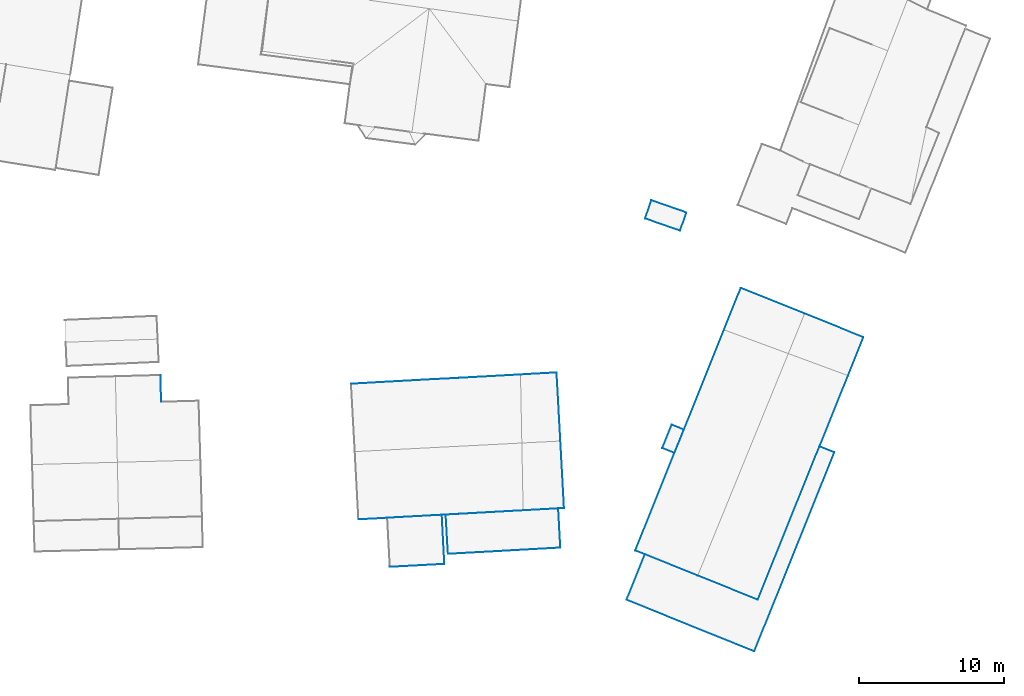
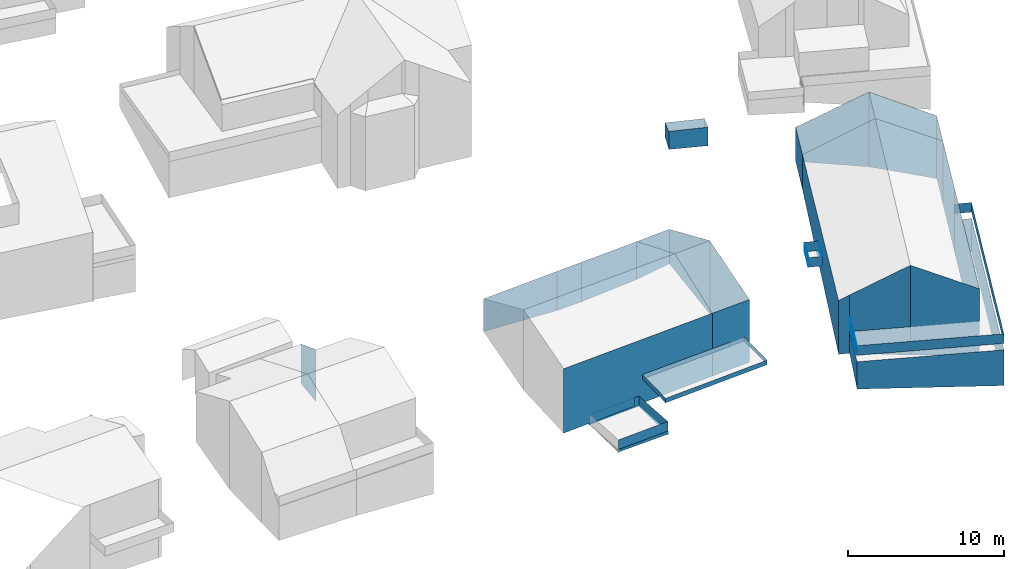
# Not in any storey, part 26 of 57: 61 walls.
"""IFC2X3 building model written with IfcOpenShell, lengths in metres."""

from ifc_helpers import new_model, entity, si_unit, converted_unit, frame, origin, place, context, subcontext, project, spatial, face_set, surface_model, element, save


model = new_model("IFC2X3")

# Units and contexts
model_context = context("Model", 3, precision=1e-05, world=origin())
body_context = subcontext(model_context, "Body", "Model", "MODEL_VIEW")
ifc_project = project(units=[converted_unit("PLANEANGLEUNIT", "DEGREE", entity("IfcRatioMeasure", 0.0174532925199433), si_unit("PLANEANGLEUNIT", "RADIAN"), dimensions=[0, 0, 0, 0, 0, 0, 0]), si_unit("AREAUNIT", "SQUARE_METRE"), si_unit("LENGTHUNIT", "METRE")], contexts=[model_context])

# Site, building
site_placement = place(None, origin())
site = spatial("IfcSite", under=ifc_project, at=site_placement, Name="_site", CompositionType="ELEMENT")
building_1_placement = place(site_placement, origin())
building_1 = spatial("IfcBuilding", under=site, at=building_1_placement, Name="_building", CompositionType="ELEMENT")

# Walls
wall_1_placement = place(building_1_placement, origin())
element("IfcWall", 1, at=wall_1_placement, inside=building_1, Name="Wall", context=body_context, shape_type="SurfaceModel", body=[
    surface_model("IfcFaceBasedSurfaceModel", [(268.934, 72.325, 108.76), (267.872, 69.688, 108.76), (267.872, 69.688, 103.866), (268.934, 72.325, 103.85)], [face_set([[[0, 1, 2, 3]]])]),
])
wall_2_placement = place(building_1_placement, origin())
element("IfcWall", 2, at=wall_2_placement, inside=building_1, Name="Wall", context=body_context, shape_type="SurfaceModel", body=[
    surface_model("IfcFaceBasedSurfaceModel", [(264.88, 73.961, 111.04), (268.934, 72.325, 108.76), (268.934, 72.325, 103.85), (264.88, 73.961, 105.195)], [face_set([[[0, 1, 2, 3]]])]),
])
wall_3_placement = place(building_1_placement, origin())
element("IfcWall", 3, at=wall_3_placement, inside=building_1, Name="Wall", context=body_context, shape_type="SurfaceModel", body=[
    surface_model("IfcFaceBasedSurfaceModel", [(260.489, 75.724, 108.76), (264.88, 73.961, 111.04), (264.88, 73.961, 105.195), (260.489, 75.724, 106.09)], [face_set([[[0, 1, 2, 3]]])]),
])
wall_4_placement = place(building_1_placement, origin())
element("IfcWall", 4, at=wall_4_placement, inside=building_1, Name="Wall", context=body_context, shape_type="SurfaceModel", body=[
    surface_model("IfcFaceBasedSurfaceModel", [(259.33, 72.84, 108.76), (260.489, 75.724, 108.76), (260.489, 75.724, 106.09), (259.33, 72.84, 106.029)], [face_set([[[0, 1, 2, 3]]])]),
])

# Building
building_2_placement = place(site_placement, origin())
building_2 = spatial("IfcBuilding", under=site, at=building_2_placement, Name="_building", CompositionType="ELEMENT")

# Walls
wall_5_placement = place(building_2_placement, origin())
element("IfcWall", 5, at=wall_5_placement, inside=building_2, Name="Wall", context=body_context, shape_type="SurfaceModel", body=[
    surface_model("IfcFaceBasedSurfaceModel", [(256.298, 79.665, 107.84), (253.886, 80.512, 107.84), (253.886, 80.512, 106.434), (256.298, 79.665, 106.392)], [face_set([[[0, 1, 2, 3]]])]),
])
wall_6_placement = place(building_2_placement, origin())
element("IfcWall", 6, at=wall_6_placement, inside=building_2, Name="Wall", context=body_context, shape_type="SurfaceModel", body=[
    surface_model("IfcFaceBasedSurfaceModel", [(256.738, 80.915, 107.6), (256.298, 79.665, 107.84), (256.298, 79.665, 106.392), (256.738, 80.915, 106.479)], [face_set([[[0, 1, 2, 3]]])]),
])
wall_7_placement = place(building_2_placement, origin())
element("IfcWall", 7, at=wall_7_placement, inside=building_2, Name="Wall", context=body_context, shape_type="SurfaceModel", body=[
    surface_model("IfcFaceBasedSurfaceModel", [(254.326, 81.762, 107.6), (256.738, 80.915, 107.6), (256.738, 80.915, 106.479), (254.326, 81.762, 106.477)], [face_set([[[0, 1, 2, 3]]])]),
])
wall_8_placement = place(building_2_placement, origin())
element("IfcWall", 8, at=wall_8_placement, inside=building_2, Name="Wall", context=body_context, shape_type="SurfaceModel", body=[
    surface_model("IfcFaceBasedSurfaceModel", [(253.886, 80.512, 107.84), (254.326, 81.762, 107.6), (254.326, 81.762, 106.477), (253.886, 80.512, 106.434)], [face_set([[[0, 1, 2, 3]]])]),
])

# Building
building_3_placement = place(site_placement, origin())
building_3 = spatial("IfcBuilding", under=site, at=building_3_placement, Name="_building", CompositionType="ELEMENT")

# Walls
wall_9_placement = place(building_3_placement, origin())
element("IfcWall", 9, at=wall_9_placement, inside=building_3, Name="Wall", context=body_context, shape_type="SurfaceModel", body=[
    surface_model("IfcFaceBasedSurfaceModel", [(261.413, 50.677, 106.24), (252.611, 54.225, 106.24), (252.611, 54.225, 104.109), (261.413, 50.677, 103.45)], [face_set([[[0, 1, 2, 3]]])]),
])
wall_10_placement = place(building_3_placement, origin())
element("IfcWall", 10, at=wall_10_placement, inside=building_3, Name="Wall", context=body_context, shape_type="SurfaceModel", body=[
    surface_model("IfcFaceBasedSurfaceModel", [(265.906, 64.801, 106.24), (266.937, 64.396, 106.24), (266.937, 64.396, 103.666), (265.906, 64.801, 103.779)], [face_set([[[0, 1, 2, 3]]])]),
])
wall_11_placement = place(building_3_placement, origin())
element("IfcWall", 11, at=wall_11_placement, inside=building_3, Name="Wall", context=body_context, shape_type="SurfaceModel", body=[
    surface_model("IfcFaceBasedSurfaceModel", [(261.656, 54.234, 108.76), (257.513, 55.902, 111.04), (257.513, 55.902, 104.021), (261.656, 54.234, 103.592)], [face_set([[[0, 1, 2, 3]]])]),
])
wall_12_placement = place(building_3_placement, origin())
element("IfcWall", 12, at=wall_12_placement, inside=building_3, Name="Wall", context=body_context, shape_type="SurfaceModel", body=[
    surface_model("IfcFaceBasedSurfaceModel", [(267.872, 69.688, 108.76), (265.906, 64.801, 108.76), (265.906, 64.801, 103.779), (267.872, 69.688, 103.866)], [face_set([[[0, 1, 2, 3]]])]),
])
wall_13_placement = place(building_3_placement, origin())
element("IfcWall", 13, at=wall_13_placement, inside=building_3, Name="Wall", context=body_context, shape_type="SurfaceModel", body=[
    surface_model("IfcFaceBasedSurfaceModel", [(265.906, 64.801, 108.76), (261.656, 54.234, 108.76), (261.656, 54.234, 103.592), (265.906, 64.801, 103.779)], [face_set([[[0, 1, 2, 3]]])]),
])
wall_14_placement = place(building_3_placement, origin())
element("IfcWall", 14, at=wall_14_placement, inside=building_3, Name="Wall", context=body_context, shape_type="SurfaceModel", body=[
    surface_model("IfcFaceBasedSurfaceModel", [(266.937, 64.396, 106.24), (261.413, 50.677, 106.24), (261.413, 50.677, 103.45), (266.937, 64.396, 103.666)], [face_set([[[0, 1, 2, 3]]])]),
])
wall_15_placement = place(building_3_placement, origin())
element("IfcWall", 15, at=wall_15_placement, inside=building_3, Name="Wall", context=body_context, shape_type="SurfaceModel", body=[
    surface_model("IfcFaceBasedSurfaceModel", [(253.875, 57.367, 109.11), (253.21, 57.623, 108.76), (253.21, 57.623, 104.551), (253.875, 57.367, 104.56)], [face_set([[[0, 1, 2, 3]]])]),
])
wall_16_placement = place(building_3_placement, origin())
element("IfcWall", 16, at=wall_16_placement, inside=building_3, Name="Wall", context=body_context, shape_type="SurfaceModel", body=[
    surface_model("IfcFaceBasedSurfaceModel", [(253.875, 57.367, 106.24), (257.513, 55.902, 106.24), (257.513, 55.902, 104.021), (253.875, 57.367, 104.56)], [face_set([[[0, 1, 2, 3]]])]),
])
wall_17_placement = place(building_3_placement, origin())
element("IfcWall", 17, at=wall_17_placement, inside=building_3, Name="Wall", context=body_context, shape_type="SurfaceModel", body=[
    surface_model("IfcFaceBasedSurfaceModel", [(252.611, 54.225, 106.24), (253.875, 57.367, 106.24), (253.875, 57.367, 104.56), (252.611, 54.225, 104.109)], [face_set([[[0, 1, 2, 3]]])]),
])
wall_18_placement = place(building_3_placement, origin())
element("IfcWall", 18, at=wall_18_placement, inside=building_3, Name="Wall", context=body_context, shape_type="SurfaceModel", body=[
    surface_model("IfcFaceBasedSurfaceModel", [(253.21, 57.623, 108.76), (259.33, 72.84, 108.76), (259.33, 72.84, 106.029), (253.21, 57.623, 104.551)], [face_set([[[0, 1, 2, 3]]])]),
])
wall_19_placement = place(building_3_placement, origin())
element("IfcWall", 19, at=wall_19_placement, inside=building_3, Name="Wall", context=body_context, shape_type="SurfaceModel", body=[
    surface_model("IfcFaceBasedSurfaceModel", [(257.513, 55.902, 111.04), (253.875, 57.367, 109.11), (253.875, 57.367, 106.24), (257.513, 55.902, 106.24)], [face_set([[[0, 1, 2, 3]]])]),
])
wall_20_placement = place(building_3_placement, origin())
element("IfcWall", 20, at=wall_20_placement, inside=building_3, Name="Wall", context=body_context, shape_type="SurfaceModel", body=[
    surface_model("IfcFaceBasedSurfaceModel", [(252.611, 54.225, 106.741), (261.413, 50.677, 106.741), (261.413, 50.677, 107.491), (252.611, 54.225, 107.491)], [face_set([[[0, 1, 2, 3]]])]),
])
wall_21_placement = place(building_3_placement, origin())
element("IfcWall", 21, at=wall_21_placement, inside=building_3, Name="Wall", context=body_context, shape_type="SurfaceModel", body=[
    surface_model("IfcFaceBasedSurfaceModel", [(253.875, 57.367, 106.741), (252.611, 54.225, 106.741), (252.611, 54.225, 107.491), (253.875, 57.367, 107.491)], [face_set([[[0, 1, 2, 3]]])]),
])
wall_22_placement = place(building_3_placement, origin())
element("IfcWall", 22, at=wall_22_placement, inside=building_3, Name="Wall", context=body_context, shape_type="SurfaceModel", body=[
    surface_model("IfcFaceBasedSurfaceModel", [(255.909, 64.344, 106.42), (255.077, 64.684, 106.42), (255.077, 64.684, 107.17), (255.909, 64.344, 107.17)], [face_set([[[0, 1, 2, 3]]])]),
])
wall_23_placement = place(building_3_placement, origin())
element("IfcWall", 23, at=wall_23_placement, inside=building_3, Name="Wall", context=body_context, shape_type="SurfaceModel", body=[
    surface_model("IfcFaceBasedSurfaceModel", [(255.725, 66.29, 106.42), (256.558, 65.96, 106.42), (256.558, 65.96, 107.17), (255.725, 66.29, 107.17)], [face_set([[[0, 1, 2, 3]]])]),
])
wall_24_placement = place(building_3_placement, origin())
element("IfcWall", 24, at=wall_24_placement, inside=building_3, Name="Wall", context=body_context, shape_type="SurfaceModel", body=[
    surface_model("IfcFaceBasedSurfaceModel", [(255.077, 64.684, 106.42), (255.725, 66.29, 106.42), (255.725, 66.29, 107.17), (255.077, 64.684, 107.17)], [face_set([[[0, 1, 2, 3]]])]),
])
wall_25_placement = place(building_3_placement, origin())
element("IfcWall", 25, at=wall_25_placement, inside=building_3, Name="Wall", context=body_context, shape_type="SurfaceModel", body=[
    surface_model("IfcFaceBasedSurfaceModel", [(261.413, 50.677, 106.741), (266.937, 64.396, 106.741), (266.937, 64.396, 107.491), (261.413, 50.677, 107.491)], [face_set([[[0, 1, 2, 3]]])]),
])
wall_26_placement = place(building_3_placement, origin())
element("IfcWall", 26, at=wall_26_placement, inside=building_3, Name="Wall", context=body_context, shape_type="SurfaceModel", body=[
    surface_model("IfcFaceBasedSurfaceModel", [(256.558, 65.96, 106.42), (255.909, 64.344, 106.42), (255.909, 64.344, 107.17), (256.558, 65.96, 107.17)], [face_set([[[0, 1, 2, 3]]])]),
])
wall_27_placement = place(building_3_placement, origin())
element("IfcWall", 27, at=wall_27_placement, inside=building_3, Name="Wall", context=body_context, shape_type="SurfaceModel", body=[
    surface_model("IfcFaceBasedSurfaceModel", [(266.937, 64.396, 106.741), (265.906, 64.801, 106.741), (265.906, 64.801, 107.491), (266.937, 64.396, 107.491)], [face_set([[[0, 1, 2, 3]]])]),
])
wall_28_placement = place(building_3_placement, origin())
element("IfcWall", 28, at=wall_28_placement, inside=building_3, Name="Wall", context=body_context, shape_type="SurfaceModel", body=[
    surface_model("IfcFaceBasedSurfaceModel", [(253.875, 57.367, 106.741), (252.611, 54.225, 106.741), (252.611, 54.225, 107.491), (253.875, 57.367, 107.491)], [face_set([[[0, 1, 2, 3]]])]),
])
wall_29_placement = place(building_3_placement, origin())
element("IfcWall", 29, at=wall_29_placement, inside=building_3, Name="Wall", context=body_context, shape_type="SurfaceModel", body=[
    surface_model("IfcFaceBasedSurfaceModel", [(255.725, 66.29, 106.42), (256.558, 65.96, 106.42), (256.558, 65.96, 107.17), (255.725, 66.29, 107.17)], [face_set([[[0, 1, 2, 3]]])]),
])
wall_30_placement = place(building_3_placement, origin())
element("IfcWall", 30, at=wall_30_placement, inside=building_3, Name="Wall", context=body_context, shape_type="SurfaceModel", body=[
    surface_model("IfcFaceBasedSurfaceModel", [(255.909, 64.344, 106.42), (255.077, 64.684, 106.42), (255.077, 64.684, 107.17), (255.909, 64.344, 107.17)], [face_set([[[0, 1, 2, 3]]])]),
])
wall_31_placement = place(building_3_placement, origin())
element("IfcWall", 31, at=wall_31_placement, inside=building_3, Name="Wall", context=body_context, shape_type="SurfaceModel", body=[
    surface_model("IfcFaceBasedSurfaceModel", [(256.558, 65.96, 106.42), (255.909, 64.344, 106.42), (255.909, 64.344, 107.17), (256.558, 65.96, 107.17)], [face_set([[[0, 1, 2, 3]]])]),
])
wall_32_placement = place(building_3_placement, origin())
element("IfcWall", 32, at=wall_32_placement, inside=building_3, Name="Wall", context=body_context, shape_type="SurfaceModel", body=[
    surface_model("IfcFaceBasedSurfaceModel", [(261.413, 50.677, 106.741), (266.937, 64.396, 106.741), (266.937, 64.396, 107.491), (261.413, 50.677, 107.491)], [face_set([[[0, 1, 2, 3]]])]),
])
wall_33_placement = place(building_3_placement, origin())
element("IfcWall", 33, at=wall_33_placement, inside=building_3, Name="Wall", context=body_context, shape_type="SurfaceModel", body=[
    surface_model("IfcFaceBasedSurfaceModel", [(266.937, 64.396, 106.741), (265.906, 64.801, 106.741), (265.906, 64.801, 107.491), (266.937, 64.396, 107.491)], [face_set([[[0, 1, 2, 3]]])]),
])
wall_34_placement = place(building_3_placement, origin())
element("IfcWall", 34, at=wall_34_placement, inside=building_3, Name="Wall", context=body_context, shape_type="SurfaceModel", body=[
    surface_model("IfcFaceBasedSurfaceModel", [(252.611, 54.225, 106.741), (261.413, 50.677, 106.741), (261.413, 50.677, 107.491), (252.611, 54.225, 107.491)], [face_set([[[0, 1, 2, 3]]])]),
])
wall_35_placement = place(building_3_placement, origin())
element("IfcWall", 35, at=wall_35_placement, inside=building_3, Name="Wall", context=body_context, shape_type="SurfaceModel", body=[
    surface_model("IfcFaceBasedSurfaceModel", [(255.077, 64.684, 106.42), (255.725, 66.29, 106.42), (255.725, 66.29, 107.17), (255.077, 64.684, 107.17)], [face_set([[[0, 1, 2, 3]]])]),
])

# Building
building_4_placement = place(site_placement, origin())
building_4 = spatial("IfcBuilding", under=site, at=building_4_placement, Name="_building", CompositionType="ELEMENT")

# Walls
wall_36_placement = place(building_4_placement, origin())
element("IfcWall", 36, at=wall_36_placement, inside=building_4, Name="Wall", context=body_context, shape_type="SurfaceModel", body=[
    surface_model("IfcFaceBasedSurfaceModel", [(247.905, 60.529, 106.0), (248.052, 57.824, 105.78), (248.052, 57.824, 105.43), (247.905, 60.529, 105.65)], [face_set([[[0, 1, 2, 3]]])]),
])
wall_37_placement = place(building_4_placement, origin())
element("IfcWall", 37, at=wall_37_placement, inside=building_4, Name="Wall", context=body_context, shape_type="SurfaceModel", body=[
    surface_model("IfcFaceBasedSurfaceModel", [(240.307, 57.395, 105.77), (240.15, 60.1, 106.04), (240.15, 60.1, 105.69), (240.307, 57.395, 105.42)], [face_set([[[0, 1, 2, 3]]])]),
])
wall_38_placement = place(building_4_placement, origin())
element("IfcWall", 38, at=wall_38_placement, inside=building_4, Name="Wall", context=body_context, shape_type="SurfaceModel", body=[
    surface_model("IfcFaceBasedSurfaceModel", [(248.052, 57.824, 105.78), (240.307, 57.395, 105.77), (240.307, 57.395, 105.42), (248.052, 57.824, 105.43)], [face_set([[[0, 1, 2, 3]]])]),
])
wall_39_placement = place(building_4_placement, origin())
element("IfcWall", 39, at=wall_39_placement, inside=building_4, Name="Wall", context=body_context, shape_type="SurfaceModel", body=[
    surface_model("IfcFaceBasedSurfaceModel", [(240.307, 57.395, 105.77), (240.15, 60.1, 106.04), (240.15, 60.1, 105.69), (240.307, 57.395, 105.42)], [face_set([[[0, 1, 2, 3]]])]),
])
wall_40_placement = place(building_4_placement, origin())
element("IfcWall", 40, at=wall_40_placement, inside=building_4, Name="Wall", context=body_context, shape_type="SurfaceModel", body=[
    surface_model("IfcFaceBasedSurfaceModel", [(247.905, 60.529, 106.0), (248.052, 57.824, 105.78), (248.052, 57.824, 105.43), (247.905, 60.529, 105.65)], [face_set([[[0, 1, 2, 3]]])]),
])
wall_41_placement = place(building_4_placement, origin())
element("IfcWall", 41, at=wall_41_placement, inside=building_4, Name="Wall", context=body_context, shape_type="SurfaceModel", body=[
    surface_model("IfcFaceBasedSurfaceModel", [(248.052, 57.824, 105.78), (240.307, 57.395, 105.77), (240.307, 57.395, 105.42), (248.052, 57.824, 105.43)], [face_set([[[0, 1, 2, 3]]])]),
])

# Building
building_5_placement = place(site_placement, origin())
building_5 = spatial("IfcBuilding", under=site, at=building_5_placement, Name="_building", CompositionType="ELEMENT")

# Walls
wall_42_placement = place(building_5_placement, origin())
element("IfcWall", 42, at=wall_42_placement, inside=building_5, Name="Wall", context=body_context, shape_type="SurfaceModel", body=[
    surface_model("IfcFaceBasedSurfaceModel", [(247.794, 69.898, 108.77), (248.054, 65.179, 110.65), (248.054, 65.179, 104.918), (247.794, 69.898, 106.067)], [face_set([[[0, 1, 2, 3]]])]),
])
wall_43_placement = place(building_5_placement, origin())
element("IfcWall", 43, at=wall_43_placement, inside=building_5, Name="Wall", context=body_context, shape_type="SurfaceModel", body=[
    surface_model("IfcFaceBasedSurfaceModel", [(245.299, 69.756, 108.77), (247.794, 69.898, 108.77), (247.794, 69.898, 106.067), (245.299, 69.756, 105.801)], [face_set([[[0, 1, 2, 3]]])]),
])
wall_44_placement = place(building_5_placement, origin())
element("IfcWall", 44, at=wall_44_placement, inside=building_5, Name="Wall", context=body_context, shape_type="SurfaceModel", body=[
    surface_model("IfcFaceBasedSurfaceModel", [(248.306, 60.55, 108.77), (245.481, 60.396, 108.78), (245.481, 60.396, 103.866), (248.306, 60.55, 103.871)], [face_set([[[0, 1, 2, 3]]])]),
])
wall_45_placement = place(building_5_placement, origin())
element("IfcWall", 45, at=wall_45_placement, inside=building_5, Name="Wall", context=body_context, shape_type="SurfaceModel", body=[
    surface_model("IfcFaceBasedSurfaceModel", [(248.054, 65.179, 110.65), (248.306, 60.55, 108.77), (248.306, 60.55, 103.871), (248.054, 65.179, 104.918)], [face_set([[[0, 1, 2, 3]]])]),
])

# Building
building_6_placement = place(site_placement, origin())
building_6 = spatial("IfcBuilding", under=site, at=building_6_placement, Name="_building", CompositionType="ELEMENT")

# Wall
wall_46_placement = place(building_6_placement, origin())
element("IfcWall", 46, at=wall_46_placement, inside=building_6, Name="Wall", context=body_context, shape_type="SurfaceModel", body=[
    surface_model("IfcFaceBasedSurfaceModel", [(220.493, 69.716, 109.47), (220.54, 67.874, 110.14), (220.54, 67.874, 106.056), (220.493, 69.716, 106.356)], [face_set([[[0, 1, 2, 3]]])]),
])

# Building
building_7_placement = place(site_placement, origin())
building_7 = spatial("IfcBuilding", under=site, at=building_7_placement, Name="_building", CompositionType="ELEMENT")

# Walls
wall_47_placement = place(building_7_placement, origin())
element("IfcWall", 47, at=wall_47_placement, inside=building_7, Name="Wall", context=body_context, shape_type="SurfaceModel", body=[
    surface_model("IfcFaceBasedSurfaceModel", [(240.15, 60.1, 106.04), (247.905, 60.529, 106.0), (247.905, 60.529, 105.65), (240.15, 60.1, 105.69)], [face_set([[[0, 1, 2, 3]]])]),
])
wall_48_placement = place(building_7_placement, origin())
element("IfcWall", 48, at=wall_48_placement, inside=building_7, Name="Wall", context=body_context, shape_type="SurfaceModel", body=[
    surface_model("IfcFaceBasedSurfaceModel", [(233.627, 69.118, 108.77), (239.208, 69.429, 108.77), (239.208, 69.429, 105.701), (233.627, 69.118, 106.204)], [face_set([[[0, 1, 2, 3]]])]),
])
wall_49_placement = place(building_7_placement, origin())
element("IfcWall", 49, at=wall_49_placement, inside=building_7, Name="Wall", context=body_context, shape_type="SurfaceModel", body=[
    surface_model("IfcFaceBasedSurfaceModel", [(245.481, 60.396, 108.78), (234.139, 59.771, 108.8), (234.139, 59.771, 103.765), (245.481, 60.396, 103.866)], [face_set([[[0, 1, 2, 3]]])]),
])
wall_50_placement = place(building_7_placement, origin())
element("IfcWall", 50, at=wall_50_placement, inside=building_7, Name="Wall", context=body_context, shape_type="SurfaceModel", body=[
    surface_model("IfcFaceBasedSurfaceModel", [(239.208, 69.429, 108.77), (241.091, 69.524, 108.77), (241.091, 69.524, 105.666), (239.208, 69.429, 105.701)], [face_set([[[0, 1, 2, 3]]])]),
])
wall_51_placement = place(building_7_placement, origin())
element("IfcWall", 51, at=wall_51_placement, inside=building_7, Name="Wall", context=body_context, shape_type="SurfaceModel", body=[
    surface_model("IfcFaceBasedSurfaceModel", [(239.88, 60.087, 103.72), (240.061, 56.701, 103.72), (240.061, 56.701, 103.475), (239.88, 60.087, 103.708)], [face_set([[[0, 1, 2, 3]]])]),
])
wall_52_placement = place(building_7_placement, origin())
element("IfcWall", 52, at=wall_52_placement, inside=building_7, Name="Wall", context=body_context, shape_type="SurfaceModel", body=[
    surface_model("IfcFaceBasedSurfaceModel", [(236.123, 59.884, 103.72), (239.88, 60.087, 103.72), (239.88, 60.087, 103.708), (236.123, 59.884, 103.709)], [face_set([[[0, 1, 2, 3]]])]),
])
wall_53_placement = place(building_7_placement, origin())
element("IfcWall", 53, at=wall_53_placement, inside=building_7, Name="Wall", context=body_context, shape_type="SurfaceModel", body=[
    surface_model("IfcFaceBasedSurfaceModel", [(240.061, 56.701, 103.72), (236.304, 56.498, 103.72), (236.304, 56.498, 103.517), (240.061, 56.701, 103.475)], [face_set([[[0, 1, 2, 3]]])]),
])
wall_54_placement = place(building_7_placement, origin())
element("IfcWall", 54, at=wall_54_placement, inside=building_7, Name="Wall", context=body_context, shape_type="SurfaceModel", body=[
    surface_model("IfcFaceBasedSurfaceModel", [(241.091, 69.524, 108.77), (245.299, 69.756, 108.77), (245.299, 69.756, 105.801), (241.091, 69.524, 105.666)], [face_set([[[0, 1, 2, 3]]])]),
])
wall_55_placement = place(building_7_placement, origin())
element("IfcWall", 55, at=wall_55_placement, inside=building_7, Name="Wall", context=body_context, shape_type="SurfaceModel", body=[
    surface_model("IfcFaceBasedSurfaceModel", [(239.88, 60.087, 103.72), (240.061, 56.701, 103.72), (240.061, 56.701, 104.47), (239.88, 60.087, 104.47)], [face_set([[[0, 1, 2, 3]]])]),
])
wall_56_placement = place(building_7_placement, origin())
element("IfcWall", 56, at=wall_56_placement, inside=building_7, Name="Wall", context=body_context, shape_type="SurfaceModel", body=[
    surface_model("IfcFaceBasedSurfaceModel", [(240.061, 56.701, 103.72), (236.304, 56.498, 103.72), (236.304, 56.498, 104.47), (240.061, 56.701, 104.47)], [face_set([[[0, 1, 2, 3]]])]),
])
for number, where, name in (
    (57, (0.0, 0.0, 0.0), "Wall"),
    (58, (0.0, 0.0, 0.0), "Wall"),
):
    element("IfcWall", number, at=place(building_7_placement, frame(where)), inside=building_7, Name=name, context=body_context, shape_type="SurfaceModel", body=[
        surface_model("IfcFaceBasedSurfaceModel", [(236.123, 59.884, 103.72), (239.88, 60.087, 103.72), (239.88, 60.087, 104.47), (236.123, 59.884, 104.47)], [face_set([[[0, 1, 2, 3]]])]),
    ])
wall_57_placement = place(building_7_placement, origin())
element("IfcWall", 59, at=wall_57_placement, inside=building_7, Name="Wall", context=body_context, shape_type="SurfaceModel", body=[
    surface_model("IfcFaceBasedSurfaceModel", [(240.061, 56.701, 103.72), (236.304, 56.498, 103.72), (236.304, 56.498, 104.47), (240.061, 56.701, 104.47)], [face_set([[[0, 1, 2, 3]]])]),
])
wall_58_placement = place(building_7_placement, origin())
element("IfcWall", 60, at=wall_58_placement, inside=building_7, Name="Wall", context=body_context, shape_type="SurfaceModel", body=[
    surface_model("IfcFaceBasedSurfaceModel", [(239.88, 60.087, 103.72), (240.061, 56.701, 103.72), (240.061, 56.701, 104.47), (239.88, 60.087, 104.47)], [face_set([[[0, 1, 2, 3]]])]),
])
wall_59_placement = place(building_7_placement, origin())
element("IfcWall", 61, at=wall_59_placement, inside=building_7, Name="Wall", context=body_context, shape_type="SurfaceModel", body=[
    surface_model("IfcFaceBasedSurfaceModel", [(240.15, 60.1, 106.04), (247.905, 60.529, 106.0), (247.905, 60.529, 105.65), (240.15, 60.1, 105.69)], [face_set([[[0, 1, 2, 3]]])]),
])

save(model, "model.ifc")
